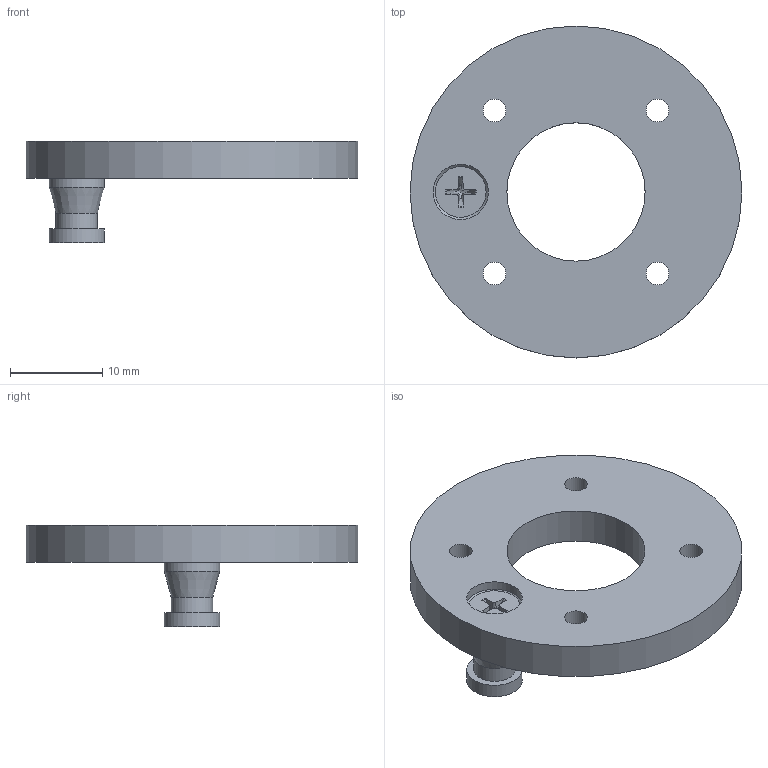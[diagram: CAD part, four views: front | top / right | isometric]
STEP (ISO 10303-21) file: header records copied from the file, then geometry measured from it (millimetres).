
FILE_DESCRIPTION(/* description */ (''),/* implementation_level */ '2;1');
FILE_NAME(/* name */ '5OM122A5.stp',/* time_stamp */ '2026-06-03T08:01:45+03:00',/* author */ ('dsgn33'),/* organization */ (''),/* preprocessor_version */ 'ST-DEVELOPER v20',/* originating_system */ 'Autodesk Inventor 2025',/* authorisation */ '');
FILE_SCHEMA (('AUTOMOTIVE_DESIGN { 1 0 10303 214 3 1 1 }'));
Length unit declared in the file: millimetre
Products named in the file (1): 5OM122A5 SB_Simplify_1
Bounding box: 36 x 36 x 11 mm (x, y, z)
Volume: 3391.9 mm3; surface area: 2688.3 mm2
Topology: 1 solids, 1 shells, 49 faces, 119 edges, 77 vertices
Faces by surface type: cylinder 15, plane 15, cone 14, torus 5
Full cylindrical faces by diameter (mm): 2.459 x5, 2.693 x1, 3 x1, 3.4 x1, 4.5 x1, 5.5 x1, 6 x3, 15 x1, 36 x1
Entity records: 1633 total; most frequent: CARTESIAN_POINT 369, DIRECTION 251, ORIENTED_EDGE 236, EDGE_CURVE 118, AXIS2_PLACEMENT_3D 103, VERTEX_POINT 77, EDGE_LOOP 65, CIRCLE 53
